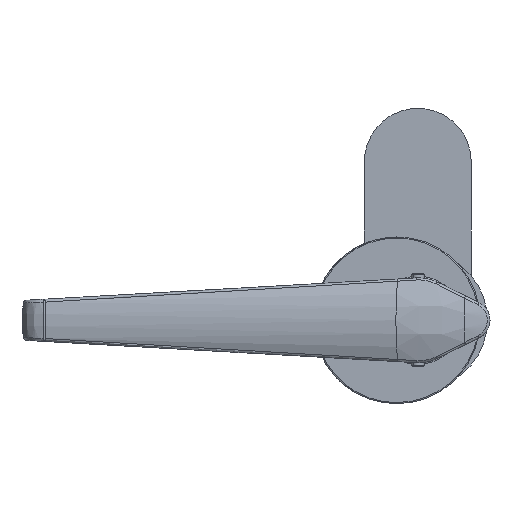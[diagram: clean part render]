
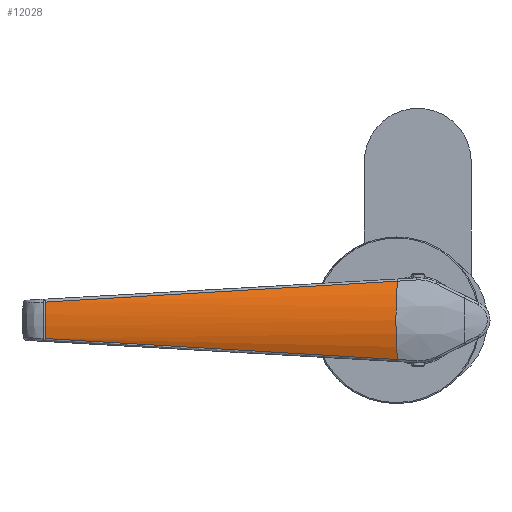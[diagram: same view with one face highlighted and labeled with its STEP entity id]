
A CAD part, front view. The second image highlights one B-rep face of the part: STEP entity #12028.
In plain terms, the highlighted free-form (B-spline) face has degree [3, 1] with [4, 2] control points.
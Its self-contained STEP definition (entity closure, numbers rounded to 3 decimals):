
#1713 = VERTEX_POINT ( 'NONE', #30297 ) ;
#2647 = CARTESIAN_POINT ( 'NONE',  ( -6.313, -24.068, 4.34 ) ) ;
#3633 = EDGE_CURVE ( 'NONE', #1713, #12318, #14051, .T. ) ;
#3645 = ORIENTED_EDGE ( 'NONE', *, *, #30548, .F. ) ;
#4890 = CARTESIAN_POINT ( 'NONE',  ( -104.555, -25.399, -1.718 ) ) ;
#5522 = CARTESIAN_POINT ( 'NONE',  ( -5.623, -20.042, 12. ) ) ;
#5773 = CARTESIAN_POINT ( 'NONE',  ( -5.708, -20.541, 10.998 ) ) ;
#5789 = ORIENTED_EDGE ( 'NONE', *, *, #3633, .F. ) ;
#5872 = CARTESIAN_POINT ( 'NONE',  ( -5.708, -20.541, -10.998 ) ) ;
#8432 = FACE_OUTER_BOUND ( 'NONE', #24621, .T. ) ;
#8803 = CARTESIAN_POINT ( 'NONE',  ( -5.623, -20.042, -12. ) ) ;
#8854 = CARTESIAN_POINT ( 'NONE',  ( -38.655, -22.203, 9.039 ) ) ;
#9064 = CARTESIAN_POINT ( 'NONE',  ( -88.092, -24.326, -6.102 ) ) ;
#10289 = CARTESIAN_POINT ( 'NONE',  ( -104.553, -25.442, 1.718 ) ) ;
#11166 = CARTESIAN_POINT ( 'NONE',  ( -71.611, -23.661, 7.081 ) ) ;
#11386 = CARTESIAN_POINT ( 'NONE',  ( -5.708, -20.541, -10.998 ) ) ;
#11493 = DIRECTION ( 'NONE',  ( 0.169, 0.986, 0. ) ) ;
#11625 = EDGE_CURVE ( 'NONE', #27935, #12318, #30604, .T. ) ;
#12028 = ADVANCED_FACE ( 'NONE', ( #8432 ), #16779, .T. ) ;
#12066 = DIRECTION ( 'NONE',  ( 0.986, -0.169, 0. ) ) ;
#12318 = VERTEX_POINT ( 'NONE', #36420 ) ;
#14051 = B_SPLINE_CURVE_WITH_KNOTS ( 'NONE', 3,
 ( #25690, #36656, #16438, #4890, #31088, #10289, #28182, #37231 ),
 .UNSPECIFIED., .F., .F.,
 ( 4, 2, 2, 4 ),
 ( 0.007, 0.01, 0.012, 0.018 ),
 .UNSPECIFIED. ) ;
#14390 = CARTESIAN_POINT ( 'NONE',  ( -105.439, -26.529, -4.34 ) ) ;
#14767 = CARTESIAN_POINT ( 'NONE',  ( -104.749, -22.502, -12. ) ) ;
#15170 = ORIENTED_EDGE ( 'NONE', *, *, #31161, .T. ) ;
#15210 = B_SPLINE_CURVE_WITH_KNOTS ( 'NONE', 3,
 ( #35611, #9064, #32545, #26008, #37735, #11386 ),
 .UNSPECIFIED., .F., .F.,
 ( 4, 2, 4 ),
 ( 0., 0.05, 0.099 ),
 .UNSPECIFIED. ) ;
#16438 = CARTESIAN_POINT ( 'NONE',  ( -104.562, -25.229, -3.429 ) ) ;
#16779 =( BOUNDED_SURFACE ( )  B_SPLINE_SURFACE ( 3, 1, ( 
 ( #31713, #5522 ),
 ( #31894, #2647 ),
 ( #14390, #35167 ),
 ( #14767, #8803 ) ),
 .UNSPECIFIED., .F., .F., .F. ) 
 B_SPLINE_SURFACE_WITH_KNOTS ( ( 4, 4 ),
 ( 2, 2 ),
 ( 0., 1. ),
 ( 0., 1. ),
 .UNSPECIFIED. ) 
 GEOMETRIC_REPRESENTATION_ITEM ( )  RATIONAL_B_SPLINE_SURFACE ( (
 ( 1., 1.),
 ( 0.922, 0.922),
 ( 0.922, 0.922),
 ( 1., 1.) ) ) 
 REPRESENTATION_ITEM ( '' )  SURFACE ( )  );
#18304 = ORIENTED_EDGE ( 'NONE', *, *, #11625, .T. ) ;
#20344 = CARTESIAN_POINT ( 'NONE',  ( -1.821, 2.135, 0. ) ) ;
#23102 = CARTESIAN_POINT ( 'NONE',  ( -22.18, -21.409, 10.019 ) ) ;
#23960 = AXIS2_PLACEMENT_3D ( 'NONE', #20344, #12066, #11493 ) ;
#24621 = EDGE_LOOP ( 'NONE', ( #5789, #15170, #3645, #18304 ) ) ;
#25690 = CARTESIAN_POINT ( 'NONE',  ( -104.575, -24.932, -5.122 ) ) ;
#25792 = CARTESIAN_POINT ( 'NONE',  ( -88.092, -24.326, 6.102 ) ) ;
#26008 = CARTESIAN_POINT ( 'NONE',  ( -38.655, -22.203, -9.039 ) ) ;
#27935 = VERTEX_POINT ( 'NONE', #36858 ) ;
#28182 = CARTESIAN_POINT ( 'NONE',  ( -104.56, -25.271, 3.437 ) ) ;
#28680 = CARTESIAN_POINT ( 'NONE',  ( -104.575, -24.932, 5.122 ) ) ;
#30297 = CARTESIAN_POINT ( 'NONE',  ( -104.575, -24.932, -5.122 ) ) ;
#30548 = EDGE_CURVE ( 'NONE', #27935, #37583, #35629, .T. ) ;
#30604 = B_SPLINE_CURVE_WITH_KNOTS ( 'NONE', 3,
 ( #5773, #23102, #8854, #11166, #25792, #28680 ),
 .UNSPECIFIED., .F., .F.,
 ( 4, 2, 4 ),
 ( 0., 0.05, 0.099 ),
 .UNSPECIFIED. ) ;
#31088 = CARTESIAN_POINT ( 'NONE',  ( -104.553, -25.442, -0.861 ) ) ;
#31161 = EDGE_CURVE ( 'NONE', #1713, #37583, #15210, .T. ) ;
#31713 = CARTESIAN_POINT ( 'NONE',  ( -104.749, -22.502, 12. ) ) ;
#31894 = CARTESIAN_POINT ( 'NONE',  ( -105.439, -26.529, 4.34 ) ) ;
#32545 = CARTESIAN_POINT ( 'NONE',  ( -71.611, -23.661, -7.081 ) ) ;
#35167 = CARTESIAN_POINT ( 'NONE',  ( -6.313, -24.068, -4.34 ) ) ;
#35611 = CARTESIAN_POINT ( 'NONE',  ( -104.575, -24.932, -5.122 ) ) ;
#35629 = CIRCLE ( 'NONE', #23960, 25.5 ) ;
#36420 = CARTESIAN_POINT ( 'NONE',  ( -104.575, -24.932, 5.122 ) ) ;
#36656 = CARTESIAN_POINT ( 'NONE',  ( -104.568, -25.101, -4.28 ) ) ;
#36858 = CARTESIAN_POINT ( 'NONE',  ( -5.708, -20.541, 10.998 ) ) ;
#37231 = CARTESIAN_POINT ( 'NONE',  ( -104.575, -24.932, 5.122 ) ) ;
#37583 = VERTEX_POINT ( 'NONE', #5872 ) ;
#37735 = CARTESIAN_POINT ( 'NONE',  ( -22.18, -21.409, -10.019 ) ) ;
